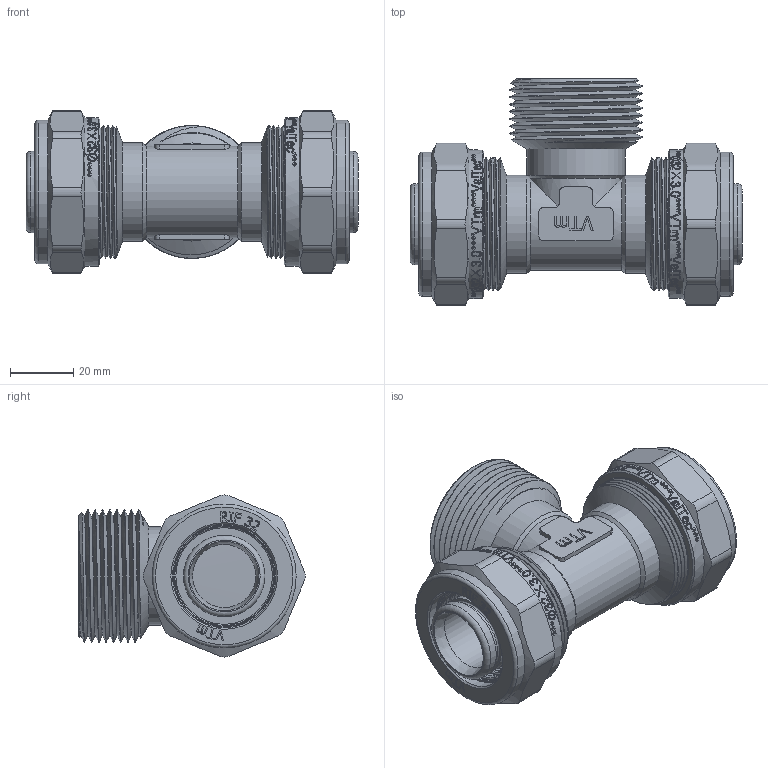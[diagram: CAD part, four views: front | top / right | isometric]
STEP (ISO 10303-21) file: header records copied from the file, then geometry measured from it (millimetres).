
FILE_DESCRIPTION(/* description */ (''),/* implementation_level */ '2;1');
FILE_NAME(/* name */ 'F:\Артём\00000\Работа удаленка\Обжимные фитинги\VTm.333.N.320732.stp',/* time_stamp */ '2020-07-30T10:12:46+03:00',/* author */ ('almis'),/* organization */ (''),/* preprocessor_version */ 'ST-DEVELOPER v18',/* originating_system */ 'Autodesk Inventor 2020',/* authorisation */ '');
FILE_SCHEMA (('AUTOMOTIVE_DESIGN { 1 0 10303 214 3 1 1 }'));
Length unit declared in the file: millimetre
Products named in the file (1): VTm.332.N.320732
Bounding box: 105 x 71.65 x 51.3 mm (x, y, z)
Volume: 91239.1 mm3; surface area: 50880.7 mm2
Topology: 1 solids, 1 shells, 1461 faces, 4159 edges, 2801 vertices
Faces by surface type: bspline 764, plane 405, cylinder 209, torus 48, cone 35
Full cylindrical faces by diameter (mm): 20 x1, 23.4 x4, 24.5 x1, 25.75 x10, 29 x1, 30.538 x8, 31 x3, 31.683 x10, 32 x1, 32.2 x2, 32.7 x2, 35.5 x2, 37.4 x9, 40.38 x16, 40.5 x7, 42 x12, 45.5 x2, 47 x2
Entity records: 66824 total; most frequent: CARTESIAN_POINT 33834, ORIENTED_EDGE 8324, DIRECTION 4372, EDGE_CURVE 4162, VERTEX_POINT 2804, LINE 1786, VECTOR 1786, B_SPLINE_CURVE_WITH_KNOTS 1749
